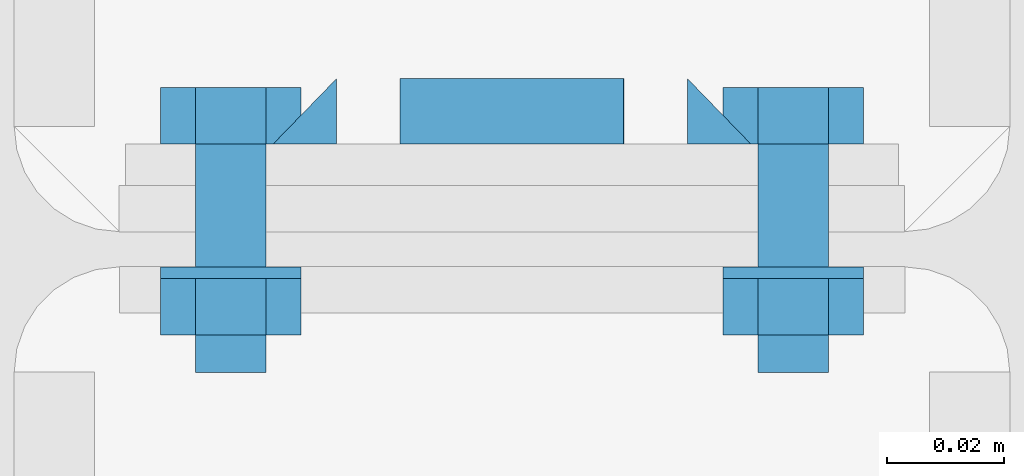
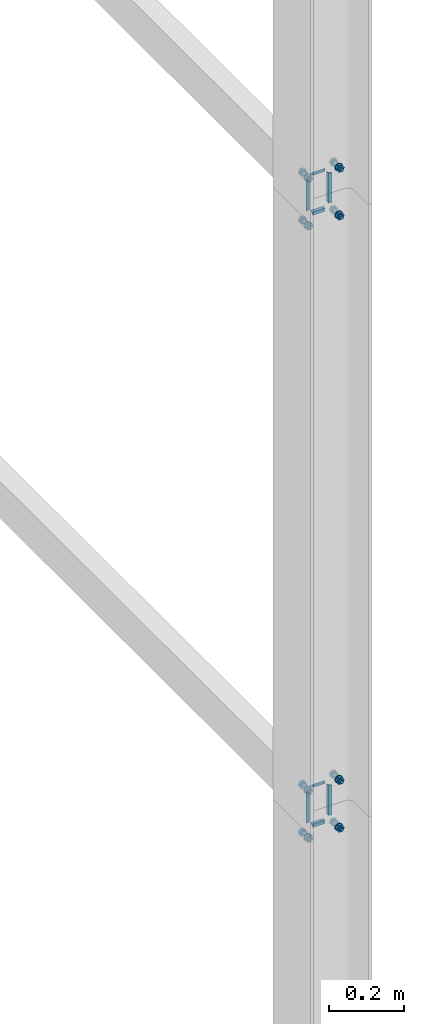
# One storey, part 97 of 251: 32 mechanical fasteners, 16 fasteners.
"""IFC4 building model written with IfcOpenShell, lengths in metres."""

from ifc_helpers import new_model, si_unit, frame, origin_with_axes, place, context, project, spatial, polyline, outline, extrude, type_object, element, save


model = new_model("IFC4")

# Units and contexts
model_context = context("Model", 3, precision=1e-05, world=origin_with_axes())
ifc_project = project(units=[si_unit("LENGTHUNIT", "METRE"), si_unit("AREAUNIT", "SQUARE_METRE"), si_unit("VOLUMEUNIT", "CUBIC_METRE"), si_unit("MASSUNIT", "GRAM", prefix="KILO"), si_unit("TIMEUNIT", "SECOND"), si_unit("PLANEANGLEUNIT", "RADIAN"), si_unit("SOLIDANGLEUNIT", "STERADIAN"), si_unit("THERMODYNAMICTEMPERATUREUNIT", "DEGREE_CELSIUS")], contexts=[model_context])

# Site, building, storey
placement_1 = place(None, origin_with_axes())
site = spatial("IfcSite", under=ifc_project, at=placement_1, Name="Italia", CompositionType="ELEMENT")
building = spatial("IfcBuilding", under=site, at=placement_1, Name="Deposito", CompositionType="ELEMENT")
storey = spatial("IfcBuildingStorey", under=building, at=placement_1, Name="Storey 0", CompositionType="ELEMENT", Elevation=0.0)

# Fasteners
fastener_type_1 = type_object("IfcFastenerType", Name="Collegamenti -001_-002 -002_-001 -002_-003 -003_-002 -003_-004 -004_-003 -004_-008 -008_-004 -009_-010 -010_-009 -010_-011 -011_-010 -011_-012 -012_-011 -012_-016 -016_-012", PredefinedType="WELD")
placement_2 = place(placement_1, origin_with_axes())
fastener_1_placement = place(placement_2, origin_with_axes())
element("IfcFastener", 1, at=fastener_1_placement, inside=storey, type_object=fastener_type_1, Name="Collegamenti -001_-002 -002_-001 -002_-003 -003_-002 -003_-004 -004_-003 -004_-008 -008_-004 -009_-010 -010_-009 -010_-011 -011_-010 -011_-012 -012_-011 -012_-016 -016_-012", context=model_context, shape_type="SweptSolid", body=[
    extrude(outline(polyline([(0.0, 0.0), (0.0111734, -0.0108382), (0.0, -0.0108382), (0.0, 0.0)])), frame((19.9809, 0.01795, 1.07079), z_axis=(1.0, 0.0, 0.0), x_axis=(0.0, 1.0, 0.0)), (0.0, 0.0, 1.0), 0.0381012),
])
fastener_type_2 = type_object("IfcFastenerType", Name="Collegamenti -001_-002 -002_-001 -002_-003 -003_-002 -003_-004 -004_-003 -004_-008 -008_-004 -009_-010 -010_-009 -010_-011 -011_-010 -011_-012 -012_-011 -012_-016 -016_-012", PredefinedType="WELD")
fastener_2_placement = place(placement_2, origin_with_axes())
element("IfcFastener", 2, at=fastener_2_placement, inside=storey, type_object=fastener_type_2, Name="Collegamenti -001_-002 -002_-001 -002_-003 -003_-002 -003_-004 -004_-003 -004_-008 -008_-004 -009_-010 -010_-009 -010_-011 -011_-010 -011_-012 -012_-011 -012_-016 -016_-012", context=model_context, shape_type="SweptSolid", body=[
    extrude(outline(polyline([(0.0, 0.0), (0.0111734, -0.0108376), (0.0, -0.0108376), (0.0, 0.0)])), frame((19.9592, 0.01795, 0.95095), z_axis=(0.0, 0.0, 1.0), x_axis=(0.0, 1.0, 0.0)), (0.0, 0.0, 1.0), 0.0980999),
])
fastener_type_3 = type_object("IfcFastenerType", Name="Collegamenti -001_-002 -002_-001 -002_-003 -003_-002 -003_-004 -004_-003 -004_-008 -008_-004 -009_-010 -010_-009 -010_-011 -011_-010 -011_-012 -012_-011 -012_-016 -016_-012", PredefinedType="WELD")
fastener_3_placement = place(placement_2, origin_with_axes())
element("IfcFastener", 3, at=fastener_3_placement, inside=storey, type_object=fastener_type_3, Name="Collegamenti -001_-002 -002_-001 -002_-003 -003_-002 -003_-004 -004_-003 -004_-008 -008_-004 -009_-010 -010_-009 -010_-011 -011_-010 -011_-012 -012_-011 -012_-016 -016_-012", context=model_context, shape_type="SweptSolid", body=[
    extrude(outline(polyline([(0.0, 0.0), (0.0111734, -0.0108376), (0.0, -0.0108376), (0.0, 0.0)])), frame((20.0408, 0.01795, 1.04905), z_axis=(0.0, 0.0, -1.0), x_axis=(0.0, 1.0, 0.0)), (0.0, 0.0, 1.0), 0.0980999),
])
fastener_type_4 = type_object("IfcFastenerType", Name="Collegamenti -001_-002 -002_-001 -002_-003 -003_-002 -003_-004 -004_-003 -004_-008 -008_-004 -009_-010 -010_-009 -010_-011 -011_-010 -011_-012 -012_-011 -012_-016 -016_-012", PredefinedType="WELD")
fastener_4_placement = place(placement_2, origin_with_axes())
element("IfcFastener", 4, at=fastener_4_placement, inside=storey, type_object=fastener_type_4, Name="Collegamenti -001_-002 -002_-001 -002_-003 -003_-002 -003_-004 -004_-003 -004_-008 -008_-004 -009_-010 -010_-009 -010_-011 -011_-010 -011_-012 -012_-011 -012_-016 -016_-012", context=model_context, shape_type="SweptSolid", body=[
    extrude(outline(polyline([(0.0, 0.0), (-0.0111734, 0.0108382), (0.0, 0.0108382), (0.0, 0.0)])), frame((20.0191, 0.01795, 0.929212), z_axis=(-1.0, 0.0, 0.0), x_axis=(0.0, -1.0, 0.0)), (0.0, 0.0, 1.0), 0.0381012),
])
fastener_type_5 = type_object("IfcFastenerType", Name="Collegamenti -001_-002 -002_-001 -002_-003 -003_-002 -003_-004 -004_-003 -004_-008 -008_-004 -009_-010 -010_-009 -010_-011 -011_-010 -011_-012 -012_-011 -012_-016 -016_-012", PredefinedType="WELD")
fastener_5_placement = place(placement_2, origin_with_axes())
element("IfcFastener", 5, at=fastener_5_placement, inside=storey, type_object=fastener_type_5, Name="Collegamenti -001_-002 -002_-001 -002_-003 -003_-002 -003_-004 -004_-003 -004_-008 -008_-004 -009_-010 -010_-009 -010_-011 -011_-010 -011_-012 -012_-011 -012_-016 -016_-012", context=model_context, shape_type="SweptSolid", body=[
    extrude(outline(polyline([(0.0, 0.0), (0.0111734, -0.0108382), (0.0, -0.0108382), (0.0, 0.0)])), frame((19.9809, 0.01795, 1.07079), z_axis=(1.0, 0.0, 0.0), x_axis=(0.0, 1.0, 0.0)), (0.0, 0.0, 1.0), 0.0381012),
])
fastener_type_6 = type_object("IfcFastenerType", Name="Collegamenti -001_-002 -002_-001 -002_-003 -003_-002 -003_-004 -004_-003 -004_-008 -008_-004 -009_-010 -010_-009 -010_-011 -011_-010 -011_-012 -012_-011 -012_-016 -016_-012", PredefinedType="WELD")
fastener_6_placement = place(placement_2, origin_with_axes())
element("IfcFastener", 6, at=fastener_6_placement, inside=storey, type_object=fastener_type_6, Name="Collegamenti -001_-002 -002_-001 -002_-003 -003_-002 -003_-004 -004_-003 -004_-008 -008_-004 -009_-010 -010_-009 -010_-011 -011_-010 -011_-012 -012_-011 -012_-016 -016_-012", context=model_context, shape_type="SweptSolid", body=[
    extrude(outline(polyline([(0.0, 0.0), (0.0111734, -0.0108376), (0.0, -0.0108376), (0.0, 0.0)])), frame((19.9592, 0.01795, 0.95095), z_axis=(0.0, 0.0, 1.0), x_axis=(0.0, 1.0, 0.0)), (0.0, 0.0, 1.0), 0.0980999),
])
fastener_type_7 = type_object("IfcFastenerType", Name="Collegamenti -001_-002 -002_-001 -002_-003 -003_-002 -003_-004 -004_-003 -004_-008 -008_-004 -009_-010 -010_-009 -010_-011 -011_-010 -011_-012 -012_-011 -012_-016 -016_-012", PredefinedType="WELD")
fastener_7_placement = place(placement_2, origin_with_axes())
element("IfcFastener", 7, at=fastener_7_placement, inside=storey, type_object=fastener_type_7, Name="Collegamenti -001_-002 -002_-001 -002_-003 -003_-002 -003_-004 -004_-003 -004_-008 -008_-004 -009_-010 -010_-009 -010_-011 -011_-010 -011_-012 -012_-011 -012_-016 -016_-012", context=model_context, shape_type="SweptSolid", body=[
    extrude(outline(polyline([(0.0, 0.0), (0.0111734, -0.0108376), (0.0, -0.0108376), (0.0, 0.0)])), frame((20.0408, 0.01795, 1.04905), z_axis=(0.0, 0.0, -1.0), x_axis=(0.0, 1.0, 0.0)), (0.0, 0.0, 1.0), 0.0980999),
])
fastener_type_8 = type_object("IfcFastenerType", Name="Collegamenti -001_-002 -002_-001 -002_-003 -003_-002 -003_-004 -004_-003 -004_-008 -008_-004 -009_-010 -010_-009 -010_-011 -011_-010 -011_-012 -012_-011 -012_-016 -016_-012", PredefinedType="WELD")
fastener_8_placement = place(placement_2, origin_with_axes())
element("IfcFastener", 8, at=fastener_8_placement, inside=storey, type_object=fastener_type_8, Name="Collegamenti -001_-002 -002_-001 -002_-003 -003_-002 -003_-004 -004_-003 -004_-008 -008_-004 -009_-010 -010_-009 -010_-011 -011_-010 -011_-012 -012_-011 -012_-016 -016_-012", context=model_context, shape_type="SweptSolid", body=[
    extrude(outline(polyline([(0.0, 0.0), (-0.0111734, 0.0108382), (0.0, 0.0108382), (0.0, 0.0)])), frame((20.0191, 0.01795, 0.929212), z_axis=(-1.0, 0.0, 0.0), x_axis=(0.0, -1.0, 0.0)), (0.0, 0.0, 1.0), 0.0381012),
])

# Mechanical fasteners
mechanical_fastener_type_1 = type_object("IfcMechanicalFastenerType", Name="Collegamenti -001_-002 -002_-001 -002_-003 -003_-002 -003_-004 -004_-003 -004_-008 -008_-004 -009_-010 -010_-009 -010_-011 -011_-010 -011_-012 -012_-011 -012_-016 -016_-012", PredefinedType="BOLT")
mechanical_fastener_1_placement = place(placement_2, origin_with_axes())
element("IfcMechanicalFastener", 9, at=mechanical_fastener_1_placement, inside=storey, type_object=mechanical_fastener_type_1, Name="Collegamenti -001_-002 -002_-001 -002_-003 -003_-002 -003_-004 -004_-003 -004_-008 -008_-004 -009_-010 -010_-009 -010_-011 -011_-010 -011_-012 -012_-011 -012_-016 -016_-012", NominalDiameter=0.0119993, context=model_context, shape_type="SweptSolid", body=[
    extrude(outline(polyline([(0.0, 0.0), (-0.012001, 0.0), (-0.0179996, 0.0103923), (-0.012001, 0.0207846), (0.0, 0.0207846), (0.00600052, 0.0103923), (0.0, 0.0)])), frame((20.042, 0.018, 0.911608), z_axis=(0.0, 1.0, 0.0), x_axis=(-1.0, 0.0, 0.0)), (0.0, 0.0, 1.0), 0.0096),
])
mechanical_fastener_type_2 = type_object("IfcMechanicalFastenerType", Name="Collegamenti -001_-002 -002_-001 -002_-003 -003_-002 -003_-004 -004_-003 -004_-008 -008_-004 -009_-010 -010_-009 -010_-011 -011_-010 -011_-012 -012_-011 -012_-016 -016_-012", PredefinedType="BOLT")
mechanical_fastener_2_placement = place(placement_2, origin_with_axes())
element("IfcMechanicalFastener", 10, at=mechanical_fastener_2_placement, inside=storey, type_object=mechanical_fastener_type_2, Name="Collegamenti -001_-002 -002_-001 -002_-003 -003_-002 -003_-004 -004_-003 -004_-008 -008_-004 -009_-010 -010_-009 -010_-011 -011_-010 -011_-012 -012_-011 -012_-016 -016_-012", NominalDiameter=0.012, context=model_context, shape_type="SweptSolid", body=[
    extrude(outline(polyline([(0.0, 0.0), (-0.000204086, -0.00155294), (-0.000804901, -0.00300002), (-0.00175858, -0.00424266), (-0.00300026, -0.00519615), (-0.00444794, -0.00579554), (-0.00600052, -0.00599998), (-0.0075531, -0.00579554), (-0.00900078, -0.00519615), (-0.0102425, -0.00424266), (-0.0111961, -0.00300002), (-0.011797, -0.00155294), (-0.012001, 0.0), (-0.011797, 0.00155294), (-0.0111961, 0.00300002), (-0.0102425, 0.00424266), (-0.00900078, 0.00519615), (-0.0075531, 0.00579554), (-0.00600052, 0.00599998), (-0.00444794, 0.00579554), (-0.00300026, 0.00519615), (-0.00175858, 0.00424266), (-0.000804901, 0.00300002), (-0.000204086, 0.00155294), (0.0, 0.0)])), frame((20.042, -0.021, 0.922), z_axis=(0.0, 1.0, 0.0), x_axis=(-1.0, 0.0, 0.0)), (0.0, 0.0, 1.0), 0.039),
])
mechanical_fastener_type_3 = type_object("IfcMechanicalFastenerType", Name="Collegamenti -001_-002 -002_-001 -002_-003 -003_-002 -003_-004 -004_-003 -004_-008 -008_-004 -009_-010 -010_-009 -010_-011 -011_-010 -011_-012 -012_-011 -012_-016 -016_-012", PredefinedType="BOLT")
mechanical_fastener_3_placement = place(placement_2, origin_with_axes())
element("IfcMechanicalFastener", 11, at=mechanical_fastener_3_placement, inside=storey, type_object=mechanical_fastener_type_3, Name="Collegamenti -001_-002 -002_-001 -002_-003 -003_-002 -003_-004 -004_-003 -004_-008 -008_-004 -009_-010 -010_-009 -010_-011 -011_-010 -011_-012 -012_-011 -012_-016 -016_-012", NominalDiameter=0.0119993, context=model_context, shape_type="SweptSolid", body=[
    extrude(outline(polyline([(0.0, 0.0), (-0.012001, 0.0), (-0.0179996, 0.0103923), (-0.012001, 0.0207846), (0.0, 0.0207846), (0.00600052, 0.0103923), (0.0, 0.0)])), frame((20.042, -0.0146, 0.911608), z_axis=(0.0, 1.0, 0.0), x_axis=(-1.0, 0.0, 0.0)), (0.0, 0.0, 1.0), 0.0096),
])
mechanical_fastener_type_4 = type_object("IfcMechanicalFastenerType", Name="Collegamenti -001_-002 -002_-001 -002_-003 -003_-002 -003_-004 -004_-003 -004_-008 -008_-004 -009_-010 -010_-009 -010_-011 -011_-010 -011_-012 -012_-011 -012_-016 -016_-012", PredefinedType="BOLT")
mechanical_fastener_4_placement = place(placement_2, origin_with_axes())
element("IfcMechanicalFastener", 12, at=mechanical_fastener_4_placement, inside=storey, type_object=mechanical_fastener_type_4, Name="Collegamenti -001_-002 -002_-001 -002_-003 -003_-002 -003_-004 -004_-003 -004_-008 -008_-004 -009_-010 -010_-009 -010_-011 -011_-010 -011_-012 -012_-011 -012_-016 -016_-012", NominalDiameter=0.024, context=model_context, shape_type="SweptSolid", body=[
    extrude(outline(polyline([(0.0, 0.0), (-0.000408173, -0.00310582), (-0.00160599, -0.00599998), (-0.00351334, -0.00848526), (-0.00599861, -0.0103923), (-0.00889397, -0.0115911), (-0.0119991, -0.012), (-0.0151043, -0.0115911), (-0.0179996, -0.0103923), (-0.0204849, -0.00848526), (-0.0223923, -0.00599998), (-0.0235901, -0.00310582), (-0.0239983, 0.0), (-0.0235901, 0.00310582), (-0.0223923, 0.00599998), (-0.0204849, 0.00848526), (-0.0179996, 0.0103923), (-0.0151043, 0.0115911), (-0.0119991, 0.012), (-0.00889397, 0.0115911), (-0.00599861, 0.0103923), (-0.00351334, 0.00848526), (-0.00160599, 0.00599998), (-0.000408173, 0.00310582), (0.0, 0.0)])), frame((20.036, -0.005, 0.922), z_axis=(0.0, 1.0, 0.0), x_axis=(-1.0, 0.0, 0.0)), (0.0, 0.0, 1.0), 0.002),
])
mechanical_fastener_type_5 = type_object("IfcMechanicalFastenerType", Name="Collegamenti -001_-002 -002_-001 -002_-003 -003_-002 -003_-004 -004_-003 -004_-008 -008_-004 -009_-010 -010_-009 -010_-011 -011_-010 -011_-012 -012_-011 -012_-016 -016_-012", PredefinedType="BOLT")
mechanical_fastener_5_placement = place(placement_2, origin_with_axes())
element("IfcMechanicalFastener", 13, at=mechanical_fastener_5_placement, inside=storey, type_object=mechanical_fastener_type_5, Name="Collegamenti -001_-002 -002_-001 -002_-003 -003_-002 -003_-004 -004_-003 -004_-008 -008_-004 -009_-010 -010_-009 -010_-011 -011_-010 -011_-012 -012_-011 -012_-016 -016_-012", NominalDiameter=0.0119993, context=model_context, shape_type="SweptSolid", body=[
    extrude(outline(polyline([(0.0, 0.0), (-0.012001, 0.0), (-0.0180016, 0.0103923), (-0.012001, 0.0207846), (0.0, 0.0207846), (0.00599861, 0.0103923), (0.0, 0.0)])), frame((19.946, 0.018, 0.911608), z_axis=(0.0, 1.0, 0.0), x_axis=(-1.0, 0.0, 0.0)), (0.0, 0.0, 1.0), 0.0096),
])
mechanical_fastener_type_6 = type_object("IfcMechanicalFastenerType", Name="Collegamenti -001_-002 -002_-001 -002_-003 -003_-002 -003_-004 -004_-003 -004_-008 -008_-004 -009_-010 -010_-009 -010_-011 -011_-010 -011_-012 -012_-011 -012_-016 -016_-012", PredefinedType="BOLT")
mechanical_fastener_6_placement = place(placement_2, origin_with_axes())
element("IfcMechanicalFastener", 14, at=mechanical_fastener_6_placement, inside=storey, type_object=mechanical_fastener_type_6, Name="Collegamenti -001_-002 -002_-001 -002_-003 -003_-002 -003_-004 -004_-003 -004_-008 -008_-004 -009_-010 -010_-009 -010_-011 -011_-010 -011_-012 -012_-011 -012_-016 -016_-012", NominalDiameter=0.012, context=model_context, shape_type="SweptSolid", body=[
    extrude(outline(polyline([(0.0, 0.0), (-0.000204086, -0.00155294), (-0.000804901, -0.00300002), (-0.00175858, -0.00424266), (-0.00300026, -0.00519615), (-0.00444794, -0.00579554), (-0.00600052, -0.00599998), (-0.0075531, -0.00579554), (-0.00900078, -0.00519615), (-0.0102425, -0.00424266), (-0.0111961, -0.00300002), (-0.011797, -0.00155294), (-0.012001, 0.0), (-0.011797, 0.00155294), (-0.0111961, 0.00300002), (-0.0102425, 0.00424266), (-0.00900078, 0.00519615), (-0.0075531, 0.00579554), (-0.00600052, 0.00599998), (-0.00444794, 0.00579554), (-0.00300026, 0.00519615), (-0.00175858, 0.00424266), (-0.000804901, 0.00300002), (-0.000204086, 0.00155294), (0.0, 0.0)])), frame((19.946, -0.021, 0.922), z_axis=(0.0, 1.0, 0.0), x_axis=(-1.0, 0.0, 0.0)), (0.0, 0.0, 1.0), 0.039),
])
mechanical_fastener_type_7 = type_object("IfcMechanicalFastenerType", Name="Collegamenti -001_-002 -002_-001 -002_-003 -003_-002 -003_-004 -004_-003 -004_-008 -008_-004 -009_-010 -010_-009 -010_-011 -011_-010 -011_-012 -012_-011 -012_-016 -016_-012", PredefinedType="BOLT")
mechanical_fastener_7_placement = place(placement_2, origin_with_axes())
element("IfcMechanicalFastener", 15, at=mechanical_fastener_7_placement, inside=storey, type_object=mechanical_fastener_type_7, Name="Collegamenti -001_-002 -002_-001 -002_-003 -003_-002 -003_-004 -004_-003 -004_-008 -008_-004 -009_-010 -010_-009 -010_-011 -011_-010 -011_-012 -012_-011 -012_-016 -016_-012", NominalDiameter=0.0119993, context=model_context, shape_type="SweptSolid", body=[
    extrude(outline(polyline([(0.0, 0.0), (-0.012001, 0.0), (-0.0180016, 0.0103923), (-0.012001, 0.0207846), (0.0, 0.0207846), (0.00599861, 0.0103923), (0.0, 0.0)])), frame((19.946, -0.0146, 0.911608), z_axis=(0.0, 1.0, 0.0), x_axis=(-1.0, 0.0, 0.0)), (0.0, 0.0, 1.0), 0.0096),
])
mechanical_fastener_type_8 = type_object("IfcMechanicalFastenerType", Name="Collegamenti -001_-002 -002_-001 -002_-003 -003_-002 -003_-004 -004_-003 -004_-008 -008_-004 -009_-010 -010_-009 -010_-011 -011_-010 -011_-012 -012_-011 -012_-016 -016_-012", PredefinedType="BOLT")
mechanical_fastener_8_placement = place(placement_2, origin_with_axes())
element("IfcMechanicalFastener", 16, at=mechanical_fastener_8_placement, inside=storey, type_object=mechanical_fastener_type_8, Name="Collegamenti -001_-002 -002_-001 -002_-003 -003_-002 -003_-004 -004_-003 -004_-008 -008_-004 -009_-010 -010_-009 -010_-011 -011_-010 -011_-012 -012_-011 -012_-016 -016_-012", NominalDiameter=0.024, context=model_context, shape_type="SweptSolid", body=[
    extrude(outline(polyline([(0.0, 0.0), (-0.000408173, -0.00310582), (-0.00160599, -0.00599998), (-0.00351334, -0.00848526), (-0.00599861, -0.0103923), (-0.00889397, -0.0115911), (-0.0119991, -0.012), (-0.0151043, -0.0115911), (-0.0179996, -0.0103923), (-0.0204849, -0.00848526), (-0.0223923, -0.00599998), (-0.0235901, -0.00310582), (-0.0239983, 0.0), (-0.0235901, 0.00310582), (-0.0223923, 0.00599998), (-0.0204849, 0.00848526), (-0.0179996, 0.0103923), (-0.0151043, 0.0115911), (-0.0119991, 0.012), (-0.00889397, 0.0115911), (-0.00599861, 0.0103923), (-0.00351334, 0.00848526), (-0.00160599, 0.00599998), (-0.000408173, 0.00310582), (0.0, 0.0)])), frame((19.94, -0.005, 0.922), z_axis=(0.0, 1.0, 0.0), x_axis=(-1.0, 0.0, 0.0)), (0.0, 0.0, 1.0), 0.002),
])
mechanical_fastener_type_9 = type_object("IfcMechanicalFastenerType", Name="Collegamenti -001_-002 -002_-001 -002_-003 -003_-002 -003_-004 -004_-003 -004_-008 -008_-004 -009_-010 -010_-009 -010_-011 -011_-010 -011_-012 -012_-011 -012_-016 -016_-012", PredefinedType="BOLT")
mechanical_fastener_9_placement = place(placement_2, origin_with_axes())
element("IfcMechanicalFastener", 17, at=mechanical_fastener_9_placement, inside=storey, type_object=mechanical_fastener_type_9, Name="Collegamenti -001_-002 -002_-001 -002_-003 -003_-002 -003_-004 -004_-003 -004_-008 -008_-004 -009_-010 -010_-009 -010_-011 -011_-010 -011_-012 -012_-011 -012_-016 -016_-012", NominalDiameter=0.0119993, context=model_context, shape_type="SweptSolid", body=[
    extrude(outline(polyline([(0.0, 0.0), (-0.012001, 0.0), (-0.0179996, 0.0103923), (-0.012001, 0.0207846), (0.0, 0.0207846), (0.00600052, 0.0103923), (0.0, 0.0)])), frame((20.042, 0.018, 1.06761), z_axis=(0.0, 1.0, 0.0), x_axis=(-1.0, 0.0, 0.0)), (0.0, 0.0, 1.0), 0.0096),
])
mechanical_fastener_type_10 = type_object("IfcMechanicalFastenerType", Name="Collegamenti -001_-002 -002_-001 -002_-003 -003_-002 -003_-004 -004_-003 -004_-008 -008_-004 -009_-010 -010_-009 -010_-011 -011_-010 -011_-012 -012_-011 -012_-016 -016_-012", PredefinedType="BOLT")
mechanical_fastener_10_placement = place(placement_2, origin_with_axes())
element("IfcMechanicalFastener", 18, at=mechanical_fastener_10_placement, inside=storey, type_object=mechanical_fastener_type_10, Name="Collegamenti -001_-002 -002_-001 -002_-003 -003_-002 -003_-004 -004_-003 -004_-008 -008_-004 -009_-010 -010_-009 -010_-011 -011_-010 -011_-012 -012_-011 -012_-016 -016_-012", NominalDiameter=0.012, context=model_context, shape_type="SweptSolid", body=[
    extrude(outline(polyline([(0.0, 0.0), (-0.000204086, -0.00155294), (-0.000804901, -0.00300002), (-0.00175858, -0.00424266), (-0.00300026, -0.00519609), (-0.00444794, -0.0057956), (-0.00600052, -0.00600004), (-0.0075531, -0.0057956), (-0.00900078, -0.00519609), (-0.0102425, -0.00424266), (-0.0111961, -0.00300002), (-0.011797, -0.00155294), (-0.012001, 0.0), (-0.011797, 0.00155294), (-0.0111961, 0.00300002), (-0.0102425, 0.00424266), (-0.00900078, 0.00519609), (-0.0075531, 0.0057956), (-0.00600052, 0.00600004), (-0.00444794, 0.0057956), (-0.00300026, 0.00519609), (-0.00175858, 0.00424266), (-0.000804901, 0.00300002), (-0.000204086, 0.00155294), (0.0, 0.0)])), frame((20.042, -0.021, 1.078), z_axis=(0.0, 1.0, 0.0), x_axis=(-1.0, 0.0, 0.0)), (0.0, 0.0, 1.0), 0.039),
])
mechanical_fastener_type_11 = type_object("IfcMechanicalFastenerType", Name="Collegamenti -001_-002 -002_-001 -002_-003 -003_-002 -003_-004 -004_-003 -004_-008 -008_-004 -009_-010 -010_-009 -010_-011 -011_-010 -011_-012 -012_-011 -012_-016 -016_-012", PredefinedType="BOLT")
mechanical_fastener_11_placement = place(placement_2, origin_with_axes())
element("IfcMechanicalFastener", 19, at=mechanical_fastener_11_placement, inside=storey, type_object=mechanical_fastener_type_11, Name="Collegamenti -001_-002 -002_-001 -002_-003 -003_-002 -003_-004 -004_-003 -004_-008 -008_-004 -009_-010 -010_-009 -010_-011 -011_-010 -011_-012 -012_-011 -012_-016 -016_-012", NominalDiameter=0.0119993, context=model_context, shape_type="SweptSolid", body=[
    extrude(outline(polyline([(0.0, 0.0), (-0.012001, 0.0), (-0.0179996, 0.0103923), (-0.012001, 0.0207846), (0.0, 0.0207846), (0.00600052, 0.0103923), (0.0, 0.0)])), frame((20.042, -0.0146, 1.06761), z_axis=(0.0, 1.0, 0.0), x_axis=(-1.0, 0.0, 0.0)), (0.0, 0.0, 1.0), 0.0096),
])
mechanical_fastener_type_12 = type_object("IfcMechanicalFastenerType", Name="Collegamenti -001_-002 -002_-001 -002_-003 -003_-002 -003_-004 -004_-003 -004_-008 -008_-004 -009_-010 -010_-009 -010_-011 -011_-010 -011_-012 -012_-011 -012_-016 -016_-012", PredefinedType="BOLT")
mechanical_fastener_12_placement = place(placement_2, origin_with_axes())
element("IfcMechanicalFastener", 20, at=mechanical_fastener_12_placement, inside=storey, type_object=mechanical_fastener_type_12, Name="Collegamenti -001_-002 -002_-001 -002_-003 -003_-002 -003_-004 -004_-003 -004_-008 -008_-004 -009_-010 -010_-009 -010_-011 -011_-010 -011_-012 -012_-011 -012_-016 -016_-012", NominalDiameter=0.024, context=model_context, shape_type="SweptSolid", body=[
    extrude(outline(polyline([(0.0, 0.0), (-0.000408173, -0.00310588), (-0.00160599, -0.00600004), (-0.00351334, -0.00848532), (-0.00599861, -0.0103923), (-0.00889397, -0.0115911), (-0.0119991, -0.012), (-0.0151043, -0.0115911), (-0.0179996, -0.0103923), (-0.0204849, -0.00848532), (-0.0223923, -0.00600004), (-0.0235901, -0.00310588), (-0.0239983, 0.0), (-0.0235901, 0.00310588), (-0.0223923, 0.00600004), (-0.0204849, 0.00848532), (-0.0179996, 0.0103923), (-0.0151043, 0.0115911), (-0.0119991, 0.012), (-0.00889397, 0.0115911), (-0.00599861, 0.0103923), (-0.00351334, 0.00848532), (-0.00160599, 0.00600004), (-0.000408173, 0.00310588), (0.0, 0.0)])), frame((20.036, -0.005, 1.078), z_axis=(0.0, 1.0, 0.0), x_axis=(-1.0, 0.0, 0.0)), (0.0, 0.0, 1.0), 0.002),
])
mechanical_fastener_type_13 = type_object("IfcMechanicalFastenerType", Name="Collegamenti -001_-002 -002_-001 -002_-003 -003_-002 -003_-004 -004_-003 -004_-008 -008_-004 -009_-010 -010_-009 -010_-011 -011_-010 -011_-012 -012_-011 -012_-016 -016_-012", PredefinedType="BOLT")
mechanical_fastener_13_placement = place(placement_2, origin_with_axes())
element("IfcMechanicalFastener", 21, at=mechanical_fastener_13_placement, inside=storey, type_object=mechanical_fastener_type_13, Name="Collegamenti -001_-002 -002_-001 -002_-003 -003_-002 -003_-004 -004_-003 -004_-008 -008_-004 -009_-010 -010_-009 -010_-011 -011_-010 -011_-012 -012_-011 -012_-016 -016_-012", NominalDiameter=0.0119993, context=model_context, shape_type="SweptSolid", body=[
    extrude(outline(polyline([(0.0, 0.0), (-0.012001, 0.0), (-0.0180016, 0.0103923), (-0.012001, 0.0207846), (0.0, 0.0207846), (0.00599861, 0.0103923), (0.0, 0.0)])), frame((19.946, 0.018, 1.06761), z_axis=(0.0, 1.0, 0.0), x_axis=(-1.0, 0.0, 0.0)), (0.0, 0.0, 1.0), 0.0096),
])
mechanical_fastener_type_14 = type_object("IfcMechanicalFastenerType", Name="Collegamenti -001_-002 -002_-001 -002_-003 -003_-002 -003_-004 -004_-003 -004_-008 -008_-004 -009_-010 -010_-009 -010_-011 -011_-010 -011_-012 -012_-011 -012_-016 -016_-012", PredefinedType="BOLT")
mechanical_fastener_14_placement = place(placement_2, origin_with_axes())
element("IfcMechanicalFastener", 22, at=mechanical_fastener_14_placement, inside=storey, type_object=mechanical_fastener_type_14, Name="Collegamenti -001_-002 -002_-001 -002_-003 -003_-002 -003_-004 -004_-003 -004_-008 -008_-004 -009_-010 -010_-009 -010_-011 -011_-010 -011_-012 -012_-011 -012_-016 -016_-012", NominalDiameter=0.012, context=model_context, shape_type="SweptSolid", body=[
    extrude(outline(polyline([(0.0, 0.0), (-0.000204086, -0.00155294), (-0.000804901, -0.00300002), (-0.00175858, -0.00424266), (-0.00300026, -0.00519609), (-0.00444794, -0.0057956), (-0.00600052, -0.00600004), (-0.0075531, -0.0057956), (-0.00900078, -0.00519609), (-0.0102425, -0.00424266), (-0.0111961, -0.00300002), (-0.011797, -0.00155294), (-0.012001, 0.0), (-0.011797, 0.00155294), (-0.0111961, 0.00300002), (-0.0102425, 0.00424266), (-0.00900078, 0.00519609), (-0.0075531, 0.0057956), (-0.00600052, 0.00600004), (-0.00444794, 0.0057956), (-0.00300026, 0.00519609), (-0.00175858, 0.00424266), (-0.000804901, 0.00300002), (-0.000204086, 0.00155294), (0.0, 0.0)])), frame((19.946, -0.021, 1.078), z_axis=(0.0, 1.0, 0.0), x_axis=(-1.0, 0.0, 0.0)), (0.0, 0.0, 1.0), 0.039),
])
mechanical_fastener_type_15 = type_object("IfcMechanicalFastenerType", Name="Collegamenti -001_-002 -002_-001 -002_-003 -003_-002 -003_-004 -004_-003 -004_-008 -008_-004 -009_-010 -010_-009 -010_-011 -011_-010 -011_-012 -012_-011 -012_-016 -016_-012", PredefinedType="BOLT")
mechanical_fastener_15_placement = place(placement_2, origin_with_axes())
element("IfcMechanicalFastener", 23, at=mechanical_fastener_15_placement, inside=storey, type_object=mechanical_fastener_type_15, Name="Collegamenti -001_-002 -002_-001 -002_-003 -003_-002 -003_-004 -004_-003 -004_-008 -008_-004 -009_-010 -010_-009 -010_-011 -011_-010 -011_-012 -012_-011 -012_-016 -016_-012", NominalDiameter=0.0119993, context=model_context, shape_type="SweptSolid", body=[
    extrude(outline(polyline([(0.0, 0.0), (-0.012001, 0.0), (-0.0180016, 0.0103923), (-0.012001, 0.0207846), (0.0, 0.0207846), (0.00599861, 0.0103923), (0.0, 0.0)])), frame((19.946, -0.0146, 1.06761), z_axis=(0.0, 1.0, 0.0), x_axis=(-1.0, 0.0, 0.0)), (0.0, 0.0, 1.0), 0.0096),
])
mechanical_fastener_type_16 = type_object("IfcMechanicalFastenerType", Name="Collegamenti -001_-002 -002_-001 -002_-003 -003_-002 -003_-004 -004_-003 -004_-008 -008_-004 -009_-010 -010_-009 -010_-011 -011_-010 -011_-012 -012_-011 -012_-016 -016_-012", PredefinedType="BOLT")
mechanical_fastener_16_placement = place(placement_2, origin_with_axes())
element("IfcMechanicalFastener", 24, at=mechanical_fastener_16_placement, inside=storey, type_object=mechanical_fastener_type_16, Name="Collegamenti -001_-002 -002_-001 -002_-003 -003_-002 -003_-004 -004_-003 -004_-008 -008_-004 -009_-010 -010_-009 -010_-011 -011_-010 -011_-012 -012_-011 -012_-016 -016_-012", NominalDiameter=0.024, context=model_context, shape_type="SweptSolid", body=[
    extrude(outline(polyline([(0.0, 0.0), (-0.000408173, -0.00310588), (-0.00160599, -0.00600004), (-0.00351334, -0.00848532), (-0.00599861, -0.0103923), (-0.00889397, -0.0115911), (-0.0119991, -0.012), (-0.0151043, -0.0115911), (-0.0179996, -0.0103923), (-0.0204849, -0.00848532), (-0.0223923, -0.00600004), (-0.0235901, -0.00310588), (-0.0239983, 0.0), (-0.0235901, 0.00310588), (-0.0223923, 0.00600004), (-0.0204849, 0.00848532), (-0.0179996, 0.0103923), (-0.0151043, 0.0115911), (-0.0119991, 0.012), (-0.00889397, 0.0115911), (-0.00599861, 0.0103923), (-0.00351334, 0.00848532), (-0.00160599, 0.00600004), (-0.000408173, 0.00310588), (0.0, 0.0)])), frame((19.94, -0.005, 1.078), z_axis=(0.0, 1.0, 0.0), x_axis=(-1.0, 0.0, 0.0)), (0.0, 0.0, 1.0), 0.002),
])

# Fasteners
fastener_type_9 = type_object("IfcFastenerType", Name="Collegamenti -001_-002 -002_-001 -002_-003 -003_-002 -003_-004 -004_-003 -004_-008 -008_-004 -009_-010 -010_-009 -010_-011 -011_-010 -011_-012 -012_-011 -012_-016 -016_-012", PredefinedType="WELD")
fastener_9_placement = place(placement_2, origin_with_axes())
element("IfcFastener", 25, at=fastener_9_placement, inside=storey, type_object=fastener_type_9, Name="Collegamenti -001_-002 -002_-001 -002_-003 -003_-002 -003_-004 -004_-003 -004_-008 -008_-004 -009_-010 -010_-009 -010_-011 -011_-010 -011_-012 -012_-011 -012_-016 -016_-012", context=model_context, shape_type="SweptSolid", body=[
    extrude(outline(polyline([(0.0, 0.0), (0.0111734, -0.0108383), (0.0, -0.0108383), (0.0, 0.0)])), frame((19.9809, 0.01795, 3.07079), z_axis=(1.0, 0.0, 0.0), x_axis=(0.0, 1.0, 0.0)), (0.0, 0.0, 1.0), 0.0381012),
])
fastener_type_10 = type_object("IfcFastenerType", Name="Collegamenti -001_-002 -002_-001 -002_-003 -003_-002 -003_-004 -004_-003 -004_-008 -008_-004 -009_-010 -010_-009 -010_-011 -011_-010 -011_-012 -012_-011 -012_-016 -016_-012", PredefinedType="WELD")
fastener_10_placement = place(placement_2, origin_with_axes())
element("IfcFastener", 26, at=fastener_10_placement, inside=storey, type_object=fastener_type_10, Name="Collegamenti -001_-002 -002_-001 -002_-003 -003_-002 -003_-004 -004_-003 -004_-008 -008_-004 -009_-010 -010_-009 -010_-011 -011_-010 -011_-012 -012_-011 -012_-016 -016_-012", context=model_context, shape_type="SweptSolid", body=[
    extrude(outline(polyline([(0.0, 0.0), (0.0111734, -0.0108376), (0.0, -0.0108376), (0.0, 0.0)])), frame((19.9592, 0.01795, 2.95095), z_axis=(0.0, 0.0, 1.0), x_axis=(0.0, 1.0, 0.0)), (0.0, 0.0, 1.0), 0.0980997),
])
fastener_type_11 = type_object("IfcFastenerType", Name="Collegamenti -001_-002 -002_-001 -002_-003 -003_-002 -003_-004 -004_-003 -004_-008 -008_-004 -009_-010 -010_-009 -010_-011 -011_-010 -011_-012 -012_-011 -012_-016 -016_-012", PredefinedType="WELD")
fastener_11_placement = place(placement_2, origin_with_axes())
element("IfcFastener", 27, at=fastener_11_placement, inside=storey, type_object=fastener_type_11, Name="Collegamenti -001_-002 -002_-001 -002_-003 -003_-002 -003_-004 -004_-003 -004_-008 -008_-004 -009_-010 -010_-009 -010_-011 -011_-010 -011_-012 -012_-011 -012_-016 -016_-012", context=model_context, shape_type="SweptSolid", body=[
    extrude(outline(polyline([(0.0, 0.0), (0.0111734, -0.0108376), (0.0, -0.0108376), (0.0, 0.0)])), frame((20.0408, 0.01795, 3.04905), z_axis=(0.0, 0.0, -1.0), x_axis=(0.0, 1.0, 0.0)), (0.0, 0.0, 1.0), 0.0980997),
])
fastener_type_12 = type_object("IfcFastenerType", Name="Collegamenti -001_-002 -002_-001 -002_-003 -003_-002 -003_-004 -004_-003 -004_-008 -008_-004 -009_-010 -010_-009 -010_-011 -011_-010 -011_-012 -012_-011 -012_-016 -016_-012", PredefinedType="WELD")
fastener_12_placement = place(placement_2, origin_with_axes())
element("IfcFastener", 28, at=fastener_12_placement, inside=storey, type_object=fastener_type_12, Name="Collegamenti -001_-002 -002_-001 -002_-003 -003_-002 -003_-004 -004_-003 -004_-008 -008_-004 -009_-010 -010_-009 -010_-011 -011_-010 -011_-012 -012_-011 -012_-016 -016_-012", context=model_context, shape_type="SweptSolid", body=[
    extrude(outline(polyline([(0.0, 0.0), (-0.0111734, 0.0108383), (0.0, 0.0108383), (0.0, 0.0)])), frame((20.0191, 0.01795, 2.92921), z_axis=(-1.0, 0.0, 0.0), x_axis=(0.0, -1.0, 0.0)), (0.0, 0.0, 1.0), 0.0381012),
])
fastener_type_13 = type_object("IfcFastenerType", Name="Collegamenti -001_-002 -002_-001 -002_-003 -003_-002 -003_-004 -004_-003 -004_-008 -008_-004 -009_-010 -010_-009 -010_-011 -011_-010 -011_-012 -012_-011 -012_-016 -016_-012", PredefinedType="WELD")
fastener_13_placement = place(placement_2, origin_with_axes())
element("IfcFastener", 29, at=fastener_13_placement, inside=storey, type_object=fastener_type_13, Name="Collegamenti -001_-002 -002_-001 -002_-003 -003_-002 -003_-004 -004_-003 -004_-008 -008_-004 -009_-010 -010_-009 -010_-011 -011_-010 -011_-012 -012_-011 -012_-016 -016_-012", context=model_context, shape_type="SweptSolid", body=[
    extrude(outline(polyline([(0.0, 0.0), (0.0111734, -0.0108383), (0.0, -0.0108383), (0.0, 0.0)])), frame((19.9809, 0.01795, 3.07079), z_axis=(1.0, 0.0, 0.0), x_axis=(0.0, 1.0, 0.0)), (0.0, 0.0, 1.0), 0.0381012),
])
fastener_type_14 = type_object("IfcFastenerType", Name="Collegamenti -001_-002 -002_-001 -002_-003 -003_-002 -003_-004 -004_-003 -004_-008 -008_-004 -009_-010 -010_-009 -010_-011 -011_-010 -011_-012 -012_-011 -012_-016 -016_-012", PredefinedType="WELD")
fastener_14_placement = place(placement_2, origin_with_axes())
element("IfcFastener", 30, at=fastener_14_placement, inside=storey, type_object=fastener_type_14, Name="Collegamenti -001_-002 -002_-001 -002_-003 -003_-002 -003_-004 -004_-003 -004_-008 -008_-004 -009_-010 -010_-009 -010_-011 -011_-010 -011_-012 -012_-011 -012_-016 -016_-012", context=model_context, shape_type="SweptSolid", body=[
    extrude(outline(polyline([(0.0, 0.0), (0.0111734, -0.0108376), (0.0, -0.0108376), (0.0, 0.0)])), frame((19.9592, 0.01795, 2.95095), z_axis=(0.0, 0.0, 1.0), x_axis=(0.0, 1.0, 0.0)), (0.0, 0.0, 1.0), 0.0980997),
])
fastener_type_15 = type_object("IfcFastenerType", Name="Collegamenti -001_-002 -002_-001 -002_-003 -003_-002 -003_-004 -004_-003 -004_-008 -008_-004 -009_-010 -010_-009 -010_-011 -011_-010 -011_-012 -012_-011 -012_-016 -016_-012", PredefinedType="WELD")
fastener_15_placement = place(placement_2, origin_with_axes())
element("IfcFastener", 31, at=fastener_15_placement, inside=storey, type_object=fastener_type_15, Name="Collegamenti -001_-002 -002_-001 -002_-003 -003_-002 -003_-004 -004_-003 -004_-008 -008_-004 -009_-010 -010_-009 -010_-011 -011_-010 -011_-012 -012_-011 -012_-016 -016_-012", context=model_context, shape_type="SweptSolid", body=[
    extrude(outline(polyline([(0.0, 0.0), (0.0111734, -0.0108376), (0.0, -0.0108376), (0.0, 0.0)])), frame((20.0408, 0.01795, 3.04905), z_axis=(0.0, 0.0, -1.0), x_axis=(0.0, 1.0, 0.0)), (0.0, 0.0, 1.0), 0.0980997),
])
fastener_type_16 = type_object("IfcFastenerType", Name="Collegamenti -001_-002 -002_-001 -002_-003 -003_-002 -003_-004 -004_-003 -004_-008 -008_-004 -009_-010 -010_-009 -010_-011 -011_-010 -011_-012 -012_-011 -012_-016 -016_-012", PredefinedType="WELD")
fastener_16_placement = place(placement_2, origin_with_axes())
element("IfcFastener", 32, at=fastener_16_placement, inside=storey, type_object=fastener_type_16, Name="Collegamenti -001_-002 -002_-001 -002_-003 -003_-002 -003_-004 -004_-003 -004_-008 -008_-004 -009_-010 -010_-009 -010_-011 -011_-010 -011_-012 -012_-011 -012_-016 -016_-012", context=model_context, shape_type="SweptSolid", body=[
    extrude(outline(polyline([(0.0, 0.0), (-0.0111734, 0.0108383), (0.0, 0.0108383), (0.0, 0.0)])), frame((20.0191, 0.01795, 2.92921), z_axis=(-1.0, 0.0, 0.0), x_axis=(0.0, -1.0, 0.0)), (0.0, 0.0, 1.0), 0.0381012),
])

# Mechanical fasteners
mechanical_fastener_type_17 = type_object("IfcMechanicalFastenerType", Name="Collegamenti -001_-002 -002_-001 -002_-003 -003_-002 -003_-004 -004_-003 -004_-008 -008_-004 -009_-010 -010_-009 -010_-011 -011_-010 -011_-012 -012_-011 -012_-016 -016_-012", PredefinedType="BOLT")
mechanical_fastener_17_placement = place(placement_2, origin_with_axes())
element("IfcMechanicalFastener", 33, at=mechanical_fastener_17_placement, inside=storey, type_object=mechanical_fastener_type_17, Name="Collegamenti -001_-002 -002_-001 -002_-003 -003_-002 -003_-004 -004_-003 -004_-008 -008_-004 -009_-010 -010_-009 -010_-011 -011_-010 -011_-012 -012_-011 -012_-016 -016_-012", NominalDiameter=0.0119992, context=model_context, shape_type="SweptSolid", body=[
    extrude(outline(polyline([(0.0, 0.0), (-0.012001, 0.0), (-0.0179996, 0.0103922), (-0.012001, 0.0207846), (0.0, 0.0207846), (0.00600052, 0.0103922), (0.0, 0.0)])), frame((20.042, 0.018, 2.91161), z_axis=(0.0, 1.0, 0.0), x_axis=(-1.0, 0.0, 0.0)), (0.0, 0.0, 1.0), 0.0096),
])
mechanical_fastener_type_18 = type_object("IfcMechanicalFastenerType", Name="Collegamenti -001_-002 -002_-001 -002_-003 -003_-002 -003_-004 -004_-003 -004_-008 -008_-004 -009_-010 -010_-009 -010_-011 -011_-010 -011_-012 -012_-011 -012_-016 -016_-012", PredefinedType="BOLT")
mechanical_fastener_18_placement = place(placement_2, origin_with_axes())
element("IfcMechanicalFastener", 34, at=mechanical_fastener_18_placement, inside=storey, type_object=mechanical_fastener_type_18, Name="Collegamenti -001_-002 -002_-001 -002_-003 -003_-002 -003_-004 -004_-003 -004_-008 -008_-004 -009_-010 -010_-009 -010_-011 -011_-010 -011_-012 -012_-011 -012_-016 -016_-012", NominalDiameter=0.012, context=model_context, shape_type="SweptSolid", body=[
    extrude(outline(polyline([(0.0, 0.0), (-0.000204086, -0.00155282), (-0.000804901, -0.00300002), (-0.00175858, -0.00424266), (-0.00300026, -0.00519609), (-0.00444794, -0.00579548), (-0.00600052, -0.00600004), (-0.0075531, -0.00579548), (-0.00900078, -0.00519609), (-0.0102425, -0.00424266), (-0.0111961, -0.00300002), (-0.011797, -0.00155282), (-0.012001, 0.0), (-0.011797, 0.00155282), (-0.0111961, 0.00300002), (-0.0102425, 0.00424266), (-0.00900078, 0.00519609), (-0.0075531, 0.00579548), (-0.00600052, 0.00600004), (-0.00444794, 0.00579548), (-0.00300026, 0.00519609), (-0.00175858, 0.00424266), (-0.000804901, 0.00300002), (-0.000204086, 0.00155282), (0.0, 0.0)])), frame((20.042, -0.021, 2.922), z_axis=(0.0, 1.0, 0.0), x_axis=(-1.0, 0.0, 0.0)), (0.0, 0.0, 1.0), 0.039),
])
mechanical_fastener_type_19 = type_object("IfcMechanicalFastenerType", Name="Collegamenti -001_-002 -002_-001 -002_-003 -003_-002 -003_-004 -004_-003 -004_-008 -008_-004 -009_-010 -010_-009 -010_-011 -011_-010 -011_-012 -012_-011 -012_-016 -016_-012", PredefinedType="BOLT")
mechanical_fastener_19_placement = place(placement_2, origin_with_axes())
element("IfcMechanicalFastener", 35, at=mechanical_fastener_19_placement, inside=storey, type_object=mechanical_fastener_type_19, Name="Collegamenti -001_-002 -002_-001 -002_-003 -003_-002 -003_-004 -004_-003 -004_-008 -008_-004 -009_-010 -010_-009 -010_-011 -011_-010 -011_-012 -012_-011 -012_-016 -016_-012", NominalDiameter=0.0119992, context=model_context, shape_type="SweptSolid", body=[
    extrude(outline(polyline([(0.0, 0.0), (-0.012001, 0.0), (-0.0179996, 0.0103922), (-0.012001, 0.0207846), (0.0, 0.0207846), (0.00600052, 0.0103922), (0.0, 0.0)])), frame((20.042, -0.0146, 2.91161), z_axis=(0.0, 1.0, 0.0), x_axis=(-1.0, 0.0, 0.0)), (0.0, 0.0, 1.0), 0.0096),
])
mechanical_fastener_type_20 = type_object("IfcMechanicalFastenerType", Name="Collegamenti -001_-002 -002_-001 -002_-003 -003_-002 -003_-004 -004_-003 -004_-008 -008_-004 -009_-010 -010_-009 -010_-011 -011_-010 -011_-012 -012_-011 -012_-016 -016_-012", PredefinedType="BOLT")
mechanical_fastener_20_placement = place(placement_2, origin_with_axes())
element("IfcMechanicalFastener", 36, at=mechanical_fastener_20_placement, inside=storey, type_object=mechanical_fastener_type_20, Name="Collegamenti -001_-002 -002_-001 -002_-003 -003_-002 -003_-004 -004_-003 -004_-008 -008_-004 -009_-010 -010_-009 -010_-011 -011_-010 -011_-012 -012_-011 -012_-016 -016_-012", NominalDiameter=0.024, context=model_context, shape_type="SweptSolid", body=[
    extrude(outline(polyline([(0.0, 0.0), (-0.000408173, -0.00310588), (-0.00160599, -0.00600004), (-0.00351334, -0.00848532), (-0.00599861, -0.0103922), (-0.00889397, -0.0115912), (-0.0119991, -0.0120001), (-0.0151043, -0.0115912), (-0.0179996, -0.0103922), (-0.0204849, -0.00848532), (-0.0223923, -0.00600004), (-0.0235901, -0.00310588), (-0.0239983, 0.0), (-0.0235901, 0.00310588), (-0.0223923, 0.00600004), (-0.0204849, 0.00848532), (-0.0179996, 0.0103922), (-0.0151043, 0.0115912), (-0.0119991, 0.0120001), (-0.00889397, 0.0115912), (-0.00599861, 0.0103922), (-0.00351334, 0.00848532), (-0.00160599, 0.00600004), (-0.000408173, 0.00310588), (0.0, 0.0)])), frame((20.036, -0.005, 2.922), z_axis=(0.0, 1.0, 0.0), x_axis=(-1.0, 0.0, 0.0)), (0.0, 0.0, 1.0), 0.002),
])
mechanical_fastener_type_21 = type_object("IfcMechanicalFastenerType", Name="Collegamenti -001_-002 -002_-001 -002_-003 -003_-002 -003_-004 -004_-003 -004_-008 -008_-004 -009_-010 -010_-009 -010_-011 -011_-010 -011_-012 -012_-011 -012_-016 -016_-012", PredefinedType="BOLT")
mechanical_fastener_21_placement = place(placement_2, origin_with_axes())
element("IfcMechanicalFastener", 37, at=mechanical_fastener_21_placement, inside=storey, type_object=mechanical_fastener_type_21, Name="Collegamenti -001_-002 -002_-001 -002_-003 -003_-002 -003_-004 -004_-003 -004_-008 -008_-004 -009_-010 -010_-009 -010_-011 -011_-010 -011_-012 -012_-011 -012_-016 -016_-012", NominalDiameter=0.0119992, context=model_context, shape_type="SweptSolid", body=[
    extrude(outline(polyline([(0.0, 0.0), (-0.012001, 0.0), (-0.0180016, 0.0103922), (-0.012001, 0.0207846), (0.0, 0.0207846), (0.00599861, 0.0103922), (0.0, 0.0)])), frame((19.946, 0.018, 2.91161), z_axis=(0.0, 1.0, 0.0), x_axis=(-1.0, 0.0, 0.0)), (0.0, 0.0, 1.0), 0.0096),
])
mechanical_fastener_type_22 = type_object("IfcMechanicalFastenerType", Name="Collegamenti -001_-002 -002_-001 -002_-003 -003_-002 -003_-004 -004_-003 -004_-008 -008_-004 -009_-010 -010_-009 -010_-011 -011_-010 -011_-012 -012_-011 -012_-016 -016_-012", PredefinedType="BOLT")
mechanical_fastener_22_placement = place(placement_2, origin_with_axes())
element("IfcMechanicalFastener", 38, at=mechanical_fastener_22_placement, inside=storey, type_object=mechanical_fastener_type_22, Name="Collegamenti -001_-002 -002_-001 -002_-003 -003_-002 -003_-004 -004_-003 -004_-008 -008_-004 -009_-010 -010_-009 -010_-011 -011_-010 -011_-012 -012_-011 -012_-016 -016_-012", NominalDiameter=0.012, context=model_context, shape_type="SweptSolid", body=[
    extrude(outline(polyline([(0.0, 0.0), (-0.000204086, -0.00155282), (-0.000804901, -0.00300002), (-0.00175858, -0.00424266), (-0.00300026, -0.00519609), (-0.00444794, -0.00579548), (-0.00600052, -0.00600004), (-0.0075531, -0.00579548), (-0.00900078, -0.00519609), (-0.0102425, -0.00424266), (-0.0111961, -0.00300002), (-0.011797, -0.00155282), (-0.012001, 0.0), (-0.011797, 0.00155282), (-0.0111961, 0.00300002), (-0.0102425, 0.00424266), (-0.00900078, 0.00519609), (-0.0075531, 0.00579548), (-0.00600052, 0.00600004), (-0.00444794, 0.00579548), (-0.00300026, 0.00519609), (-0.00175858, 0.00424266), (-0.000804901, 0.00300002), (-0.000204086, 0.00155282), (0.0, 0.0)])), frame((19.946, -0.021, 2.922), z_axis=(0.0, 1.0, 0.0), x_axis=(-1.0, 0.0, 0.0)), (0.0, 0.0, 1.0), 0.039),
])
mechanical_fastener_type_23 = type_object("IfcMechanicalFastenerType", Name="Collegamenti -001_-002 -002_-001 -002_-003 -003_-002 -003_-004 -004_-003 -004_-008 -008_-004 -009_-010 -010_-009 -010_-011 -011_-010 -011_-012 -012_-011 -012_-016 -016_-012", PredefinedType="BOLT")
mechanical_fastener_23_placement = place(placement_2, origin_with_axes())
element("IfcMechanicalFastener", 39, at=mechanical_fastener_23_placement, inside=storey, type_object=mechanical_fastener_type_23, Name="Collegamenti -001_-002 -002_-001 -002_-003 -003_-002 -003_-004 -004_-003 -004_-008 -008_-004 -009_-010 -010_-009 -010_-011 -011_-010 -011_-012 -012_-011 -012_-016 -016_-012", NominalDiameter=0.0119992, context=model_context, shape_type="SweptSolid", body=[
    extrude(outline(polyline([(0.0, 0.0), (-0.012001, 0.0), (-0.0180016, 0.0103922), (-0.012001, 0.0207846), (0.0, 0.0207846), (0.00599861, 0.0103922), (0.0, 0.0)])), frame((19.946, -0.0146, 2.91161), z_axis=(0.0, 1.0, 0.0), x_axis=(-1.0, 0.0, 0.0)), (0.0, 0.0, 1.0), 0.0096),
])
mechanical_fastener_type_24 = type_object("IfcMechanicalFastenerType", Name="Collegamenti -001_-002 -002_-001 -002_-003 -003_-002 -003_-004 -004_-003 -004_-008 -008_-004 -009_-010 -010_-009 -010_-011 -011_-010 -011_-012 -012_-011 -012_-016 -016_-012", PredefinedType="BOLT")
mechanical_fastener_24_placement = place(placement_2, origin_with_axes())
element("IfcMechanicalFastener", 40, at=mechanical_fastener_24_placement, inside=storey, type_object=mechanical_fastener_type_24, Name="Collegamenti -001_-002 -002_-001 -002_-003 -003_-002 -003_-004 -004_-003 -004_-008 -008_-004 -009_-010 -010_-009 -010_-011 -011_-010 -011_-012 -012_-011 -012_-016 -016_-012", NominalDiameter=0.024, context=model_context, shape_type="SweptSolid", body=[
    extrude(outline(polyline([(0.0, 0.0), (-0.000408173, -0.00310588), (-0.00160599, -0.00600004), (-0.00351334, -0.00848532), (-0.00599861, -0.0103922), (-0.00889397, -0.0115912), (-0.0119991, -0.0120001), (-0.0151043, -0.0115912), (-0.0179996, -0.0103922), (-0.0204849, -0.00848532), (-0.0223923, -0.00600004), (-0.0235901, -0.00310588), (-0.0239983, 0.0), (-0.0235901, 0.00310588), (-0.0223923, 0.00600004), (-0.0204849, 0.00848532), (-0.0179996, 0.0103922), (-0.0151043, 0.0115912), (-0.0119991, 0.0120001), (-0.00889397, 0.0115912), (-0.00599861, 0.0103922), (-0.00351334, 0.00848532), (-0.00160599, 0.00600004), (-0.000408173, 0.00310588), (0.0, 0.0)])), frame((19.94, -0.005, 2.922), z_axis=(0.0, 1.0, 0.0), x_axis=(-1.0, 0.0, 0.0)), (0.0, 0.0, 1.0), 0.002),
])
mechanical_fastener_type_25 = type_object("IfcMechanicalFastenerType", Name="Collegamenti -001_-002 -002_-001 -002_-003 -003_-002 -003_-004 -004_-003 -004_-008 -008_-004 -009_-010 -010_-009 -010_-011 -011_-010 -011_-012 -012_-011 -012_-016 -016_-012", PredefinedType="BOLT")
mechanical_fastener_25_placement = place(placement_2, origin_with_axes())
element("IfcMechanicalFastener", 41, at=mechanical_fastener_25_placement, inside=storey, type_object=mechanical_fastener_type_25, Name="Collegamenti -001_-002 -002_-001 -002_-003 -003_-002 -003_-004 -004_-003 -004_-008 -008_-004 -009_-010 -010_-009 -010_-011 -011_-010 -011_-012 -012_-011 -012_-016 -016_-012", NominalDiameter=0.0119992, context=model_context, shape_type="SweptSolid", body=[
    extrude(outline(polyline([(0.0, 0.0), (-0.012001, 0.0), (-0.0179996, 0.0103924), (-0.012001, 0.0207846), (0.0, 0.0207846), (0.00600052, 0.0103924), (0.0, 0.0)])), frame((20.042, 0.018, 3.06761), z_axis=(0.0, 1.0, 0.0), x_axis=(-1.0, 0.0, 0.0)), (0.0, 0.0, 1.0), 0.0096),
])
mechanical_fastener_type_26 = type_object("IfcMechanicalFastenerType", Name="Collegamenti -001_-002 -002_-001 -002_-003 -003_-002 -003_-004 -004_-003 -004_-008 -008_-004 -009_-010 -010_-009 -010_-011 -011_-010 -011_-012 -012_-011 -012_-016 -016_-012", PredefinedType="BOLT")
mechanical_fastener_26_placement = place(placement_2, origin_with_axes())
element("IfcMechanicalFastener", 42, at=mechanical_fastener_26_placement, inside=storey, type_object=mechanical_fastener_type_26, Name="Collegamenti -001_-002 -002_-001 -002_-003 -003_-002 -003_-004 -004_-003 -004_-008 -008_-004 -009_-010 -010_-009 -010_-011 -011_-010 -011_-012 -012_-011 -012_-016 -016_-012", NominalDiameter=0.012, context=model_context, shape_type="SweptSolid", body=[
    extrude(outline(polyline([(0.0, 0.0), (-0.000204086, -0.00155282), (-0.000804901, -0.00300002), (-0.00175858, -0.00424266), (-0.00300026, -0.00519609), (-0.00444794, -0.00579548), (-0.00600052, -0.00600004), (-0.0075531, -0.00579548), (-0.00900078, -0.00519609), (-0.0102425, -0.00424266), (-0.0111961, -0.00300002), (-0.011797, -0.00155282), (-0.012001, 0.0), (-0.011797, 0.00155282), (-0.0111961, 0.00300002), (-0.0102425, 0.00424266), (-0.00900078, 0.00519609), (-0.0075531, 0.00579548), (-0.00600052, 0.00600004), (-0.00444794, 0.00579548), (-0.00300026, 0.00519609), (-0.00175858, 0.00424266), (-0.000804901, 0.00300002), (-0.000204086, 0.00155282), (0.0, 0.0)])), frame((20.042, -0.021, 3.078), z_axis=(0.0, 1.0, 0.0), x_axis=(-1.0, 0.0, 0.0)), (0.0, 0.0, 1.0), 0.039),
])
mechanical_fastener_type_27 = type_object("IfcMechanicalFastenerType", Name="Collegamenti -001_-002 -002_-001 -002_-003 -003_-002 -003_-004 -004_-003 -004_-008 -008_-004 -009_-010 -010_-009 -010_-011 -011_-010 -011_-012 -012_-011 -012_-016 -016_-012", PredefinedType="BOLT")
mechanical_fastener_27_placement = place(placement_2, origin_with_axes())
element("IfcMechanicalFastener", 43, at=mechanical_fastener_27_placement, inside=storey, type_object=mechanical_fastener_type_27, Name="Collegamenti -001_-002 -002_-001 -002_-003 -003_-002 -003_-004 -004_-003 -004_-008 -008_-004 -009_-010 -010_-009 -010_-011 -011_-010 -011_-012 -012_-011 -012_-016 -016_-012", NominalDiameter=0.0119992, context=model_context, shape_type="SweptSolid", body=[
    extrude(outline(polyline([(0.0, 0.0), (-0.012001, 0.0), (-0.0179996, 0.0103924), (-0.012001, 0.0207846), (0.0, 0.0207846), (0.00600052, 0.0103924), (0.0, 0.0)])), frame((20.042, -0.0146, 3.06761), z_axis=(0.0, 1.0, 0.0), x_axis=(-1.0, 0.0, 0.0)), (0.0, 0.0, 1.0), 0.0096),
])
mechanical_fastener_type_28 = type_object("IfcMechanicalFastenerType", Name="Collegamenti -001_-002 -002_-001 -002_-003 -003_-002 -003_-004 -004_-003 -004_-008 -008_-004 -009_-010 -010_-009 -010_-011 -011_-010 -011_-012 -012_-011 -012_-016 -016_-012", PredefinedType="BOLT")
mechanical_fastener_28_placement = place(placement_2, origin_with_axes())
element("IfcMechanicalFastener", 44, at=mechanical_fastener_28_placement, inside=storey, type_object=mechanical_fastener_type_28, Name="Collegamenti -001_-002 -002_-001 -002_-003 -003_-002 -003_-004 -004_-003 -004_-008 -008_-004 -009_-010 -010_-009 -010_-011 -011_-010 -011_-012 -012_-011 -012_-016 -016_-012", NominalDiameter=0.024, context=model_context, shape_type="SweptSolid", body=[
    extrude(outline(polyline([(0.0, 0.0), (-0.000408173, -0.00310588), (-0.00160599, -0.00600004), (-0.00351334, -0.00848532), (-0.00599861, -0.0103922), (-0.00889397, -0.0115912), (-0.0119991, -0.0120001), (-0.0151043, -0.0115912), (-0.0179996, -0.0103922), (-0.0204849, -0.00848532), (-0.0223923, -0.00600004), (-0.0235901, -0.00310588), (-0.0239983, 0.0), (-0.0235901, 0.00310588), (-0.0223923, 0.00600004), (-0.0204849, 0.00848532), (-0.0179996, 0.0103922), (-0.0151043, 0.0115912), (-0.0119991, 0.0120001), (-0.00889397, 0.0115912), (-0.00599861, 0.0103922), (-0.00351334, 0.00848532), (-0.00160599, 0.00600004), (-0.000408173, 0.00310588), (0.0, 0.0)])), frame((20.036, -0.005, 3.078), z_axis=(0.0, 1.0, 0.0), x_axis=(-1.0, 0.0, 0.0)), (0.0, 0.0, 1.0), 0.002),
])
mechanical_fastener_type_29 = type_object("IfcMechanicalFastenerType", Name="Collegamenti -001_-002 -002_-001 -002_-003 -003_-002 -003_-004 -004_-003 -004_-008 -008_-004 -009_-010 -010_-009 -010_-011 -011_-010 -011_-012 -012_-011 -012_-016 -016_-012", PredefinedType="BOLT")
mechanical_fastener_29_placement = place(placement_2, origin_with_axes())
element("IfcMechanicalFastener", 45, at=mechanical_fastener_29_placement, inside=storey, type_object=mechanical_fastener_type_29, Name="Collegamenti -001_-002 -002_-001 -002_-003 -003_-002 -003_-004 -004_-003 -004_-008 -008_-004 -009_-010 -010_-009 -010_-011 -011_-010 -011_-012 -012_-011 -012_-016 -016_-012", NominalDiameter=0.0119992, context=model_context, shape_type="SweptSolid", body=[
    extrude(outline(polyline([(0.0, 0.0), (-0.012001, 0.0), (-0.0180016, 0.0103924), (-0.012001, 0.0207846), (0.0, 0.0207846), (0.00599861, 0.0103924), (0.0, 0.0)])), frame((19.946, 0.018, 3.06761), z_axis=(0.0, 1.0, 0.0), x_axis=(-1.0, 0.0, 0.0)), (0.0, 0.0, 1.0), 0.0096),
])
mechanical_fastener_type_30 = type_object("IfcMechanicalFastenerType", Name="Collegamenti -001_-002 -002_-001 -002_-003 -003_-002 -003_-004 -004_-003 -004_-008 -008_-004 -009_-010 -010_-009 -010_-011 -011_-010 -011_-012 -012_-011 -012_-016 -016_-012", PredefinedType="BOLT")
mechanical_fastener_30_placement = place(placement_2, origin_with_axes())
element("IfcMechanicalFastener", 46, at=mechanical_fastener_30_placement, inside=storey, type_object=mechanical_fastener_type_30, Name="Collegamenti -001_-002 -002_-001 -002_-003 -003_-002 -003_-004 -004_-003 -004_-008 -008_-004 -009_-010 -010_-009 -010_-011 -011_-010 -011_-012 -012_-011 -012_-016 -016_-012", NominalDiameter=0.012, context=model_context, shape_type="SweptSolid", body=[
    extrude(outline(polyline([(0.0, 0.0), (-0.000204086, -0.00155282), (-0.000804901, -0.00300002), (-0.00175858, -0.00424266), (-0.00300026, -0.00519609), (-0.00444794, -0.00579548), (-0.00600052, -0.00600004), (-0.0075531, -0.00579548), (-0.00900078, -0.00519609), (-0.0102425, -0.00424266), (-0.0111961, -0.00300002), (-0.011797, -0.00155282), (-0.012001, 0.0), (-0.011797, 0.00155282), (-0.0111961, 0.00300002), (-0.0102425, 0.00424266), (-0.00900078, 0.00519609), (-0.0075531, 0.00579548), (-0.00600052, 0.00600004), (-0.00444794, 0.00579548), (-0.00300026, 0.00519609), (-0.00175858, 0.00424266), (-0.000804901, 0.00300002), (-0.000204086, 0.00155282), (0.0, 0.0)])), frame((19.946, -0.021, 3.078), z_axis=(0.0, 1.0, 0.0), x_axis=(-1.0, 0.0, 0.0)), (0.0, 0.0, 1.0), 0.039),
])
mechanical_fastener_type_31 = type_object("IfcMechanicalFastenerType", Name="Collegamenti -001_-002 -002_-001 -002_-003 -003_-002 -003_-004 -004_-003 -004_-008 -008_-004 -009_-010 -010_-009 -010_-011 -011_-010 -011_-012 -012_-011 -012_-016 -016_-012", PredefinedType="BOLT")
mechanical_fastener_31_placement = place(placement_2, origin_with_axes())
element("IfcMechanicalFastener", 47, at=mechanical_fastener_31_placement, inside=storey, type_object=mechanical_fastener_type_31, Name="Collegamenti -001_-002 -002_-001 -002_-003 -003_-002 -003_-004 -004_-003 -004_-008 -008_-004 -009_-010 -010_-009 -010_-011 -011_-010 -011_-012 -012_-011 -012_-016 -016_-012", NominalDiameter=0.0119992, context=model_context, shape_type="SweptSolid", body=[
    extrude(outline(polyline([(0.0, 0.0), (-0.012001, 0.0), (-0.0180016, 0.0103924), (-0.012001, 0.0207846), (0.0, 0.0207846), (0.00599861, 0.0103924), (0.0, 0.0)])), frame((19.946, -0.0146, 3.06761), z_axis=(0.0, 1.0, 0.0), x_axis=(-1.0, 0.0, 0.0)), (0.0, 0.0, 1.0), 0.0096),
])
mechanical_fastener_type_32 = type_object("IfcMechanicalFastenerType", Name="Collegamenti -001_-002 -002_-001 -002_-003 -003_-002 -003_-004 -004_-003 -004_-008 -008_-004 -009_-010 -010_-009 -010_-011 -011_-010 -011_-012 -012_-011 -012_-016 -016_-012", PredefinedType="BOLT")
mechanical_fastener_32_placement = place(placement_2, origin_with_axes())
element("IfcMechanicalFastener", 48, at=mechanical_fastener_32_placement, inside=storey, type_object=mechanical_fastener_type_32, Name="Collegamenti -001_-002 -002_-001 -002_-003 -003_-002 -003_-004 -004_-003 -004_-008 -008_-004 -009_-010 -010_-009 -010_-011 -011_-010 -011_-012 -012_-011 -012_-016 -016_-012", NominalDiameter=0.024, context=model_context, shape_type="SweptSolid", body=[
    extrude(outline(polyline([(0.0, 0.0), (-0.000408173, -0.00310588), (-0.00160599, -0.00600004), (-0.00351334, -0.00848532), (-0.00599861, -0.0103922), (-0.00889397, -0.0115912), (-0.0119991, -0.0120001), (-0.0151043, -0.0115912), (-0.0179996, -0.0103922), (-0.0204849, -0.00848532), (-0.0223923, -0.00600004), (-0.0235901, -0.00310588), (-0.0239983, 0.0), (-0.0235901, 0.00310588), (-0.0223923, 0.00600004), (-0.0204849, 0.00848532), (-0.0179996, 0.0103922), (-0.0151043, 0.0115912), (-0.0119991, 0.0120001), (-0.00889397, 0.0115912), (-0.00599861, 0.0103922), (-0.00351334, 0.00848532), (-0.00160599, 0.00600004), (-0.000408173, 0.00310588), (0.0, 0.0)])), frame((19.94, -0.005, 3.078), z_axis=(0.0, 1.0, 0.0), x_axis=(-1.0, 0.0, 0.0)), (0.0, 0.0, 1.0), 0.002),
])

save(model, "model.ifc")
